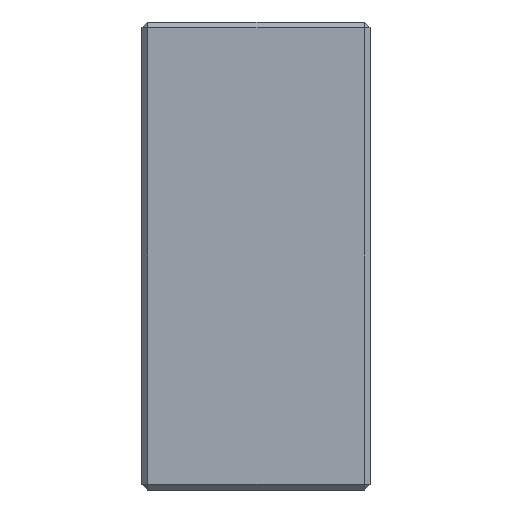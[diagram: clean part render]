
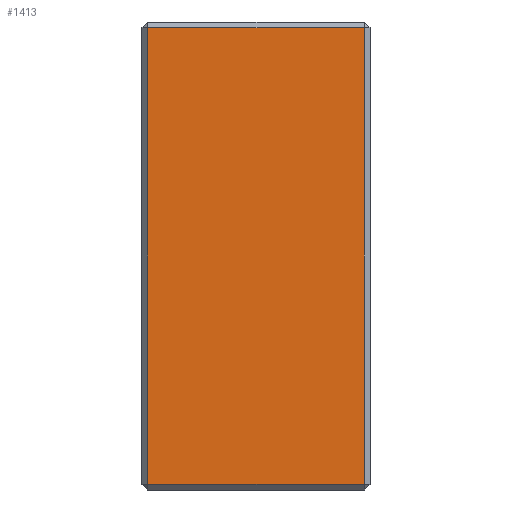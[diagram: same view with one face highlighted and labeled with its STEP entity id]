
A CAD part, left-side view. The second image highlights one B-rep face of the part: STEP entity #1413.
In plain terms, the highlighted planar face has unit normal (-1, 0, 0).
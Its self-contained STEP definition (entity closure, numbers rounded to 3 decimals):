
#129 = LINE ( 'NONE', #1354, #2842 ) ;
#237 = VECTOR ( 'NONE', #6559, 1000. ) ;
#723 = EDGE_LOOP ( 'NONE', ( #1049, #1071, #2450, #5941 ) ) ;
#1049 = ORIENTED_EDGE ( 'NONE', *, *, #6311, .T. ) ;
#1071 = ORIENTED_EDGE ( 'NONE', *, *, #4944, .T. ) ;
#1288 = DIRECTION ( 'NONE',  ( 0., 0., -1. ) ) ;
#1354 = CARTESIAN_POINT ( 'NONE',  ( 0., -9.75, -19.5 ) ) ;
#1413 = ADVANCED_FACE ( 'NONE', ( #4408 ), #3384, .T. ) ;
#2019 = LINE ( 'NONE', #6504, #4891 ) ;
#2121 = VERTEX_POINT ( 'NONE', #6023 ) ;
#2350 = VECTOR ( 'NONE', #6041, 1000. ) ;
#2450 = ORIENTED_EDGE ( 'NONE', *, *, #4498, .T. ) ;
#2464 = VERTEX_POINT ( 'NONE', #4958 ) ;
#2842 = VECTOR ( 'NONE', #4618, 1000. ) ;
#3376 = DIRECTION ( 'NONE',  ( -1., 0., 0. ) ) ;
#3378 = CARTESIAN_POINT ( 'NONE',  ( 0., 9.75, -20. ) ) ;
#3384 = PLANE ( 'NONE',  #4159 ) ;
#3385 = DIRECTION ( 'NONE',  ( 0., 0., 1. ) ) ;
#3787 = LINE ( 'NONE', #6492, #2350 ) ;
#4159 = AXIS2_PLACEMENT_3D ( 'NONE', #3378, #3376, #3385 ) ;
#4408 = FACE_OUTER_BOUND ( 'NONE', #723, .T. ) ;
#4498 = EDGE_CURVE ( 'NONE', #2121, #2464, #3787, .T. ) ;
#4578 = LINE ( 'NONE', #6093, #237 ) ;
#4618 = DIRECTION ( 'NONE',  ( 0., -1., 0. ) ) ;
#4891 = VECTOR ( 'NONE', #1288, 1000. ) ;
#4944 = EDGE_CURVE ( 'NONE', #5606, #2121, #129, .T. ) ;
#4958 = CARTESIAN_POINT ( 'NONE',  ( 0., -9.25, 19.5 ) ) ;
#5452 = VERTEX_POINT ( 'NONE', #5557 ) ;
#5557 = CARTESIAN_POINT ( 'NONE',  ( 0., 9.25, 19.5 ) ) ;
#5606 = VERTEX_POINT ( 'NONE', #5745 ) ;
#5745 = CARTESIAN_POINT ( 'NONE',  ( 0., 9.25, -19.5 ) ) ;
#5941 = ORIENTED_EDGE ( 'NONE', *, *, #6393, .T. ) ;
#6023 = CARTESIAN_POINT ( 'NONE',  ( 0., -9.25, -19.5 ) ) ;
#6041 = DIRECTION ( 'NONE',  ( 0., 0., 1. ) ) ;
#6093 = CARTESIAN_POINT ( 'NONE',  ( 0., 9.75, 19.5 ) ) ;
#6311 = EDGE_CURVE ( 'NONE', #5452, #5606, #2019, .T. ) ;
#6393 = EDGE_CURVE ( 'NONE', #2464, #5452, #4578, .T. ) ;
#6492 = CARTESIAN_POINT ( 'NONE',  ( 0., -9.25, 20. ) ) ;
#6504 = CARTESIAN_POINT ( 'NONE',  ( 0., 9.25, -20. ) ) ;
#6559 = DIRECTION ( 'NONE',  ( 0., 1., 0. ) ) ;
